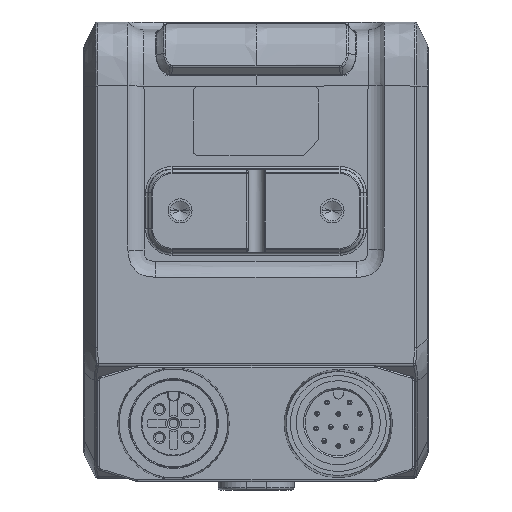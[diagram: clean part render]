
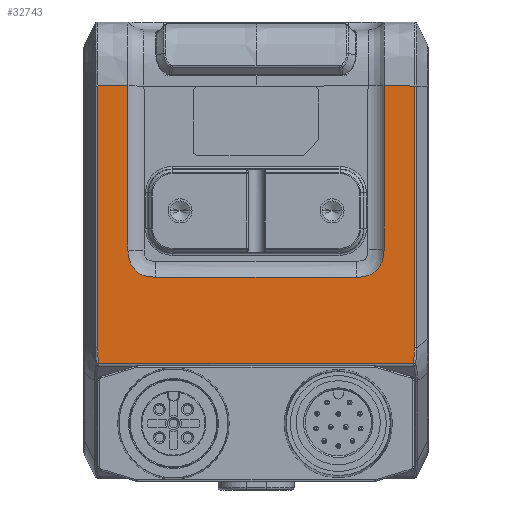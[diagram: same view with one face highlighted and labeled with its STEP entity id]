
A CAD part, front view. The second image highlights one B-rep face of the part: STEP entity #32743.
In plain terms, the highlighted planar face has unit normal (0, -1, 0).
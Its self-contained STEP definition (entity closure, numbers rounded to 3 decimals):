
#1544=CARTESIAN_POINT('',(-102.418,-21.4,
161.638));
#1553=CARTESIAN_POINT('',(-98.603,-21.4,
161.638));
#1594=DIRECTION('',(-1.,0.,0.));
#1595=VECTOR('',#1594,39.402);
#1596=CARTESIAN_POINT('',(-62.902,-21.4,
126.977));
#1597=LINE('',#1596,#1595);
#1598=CARTESIAN_POINT('',(-102.418,-21.4,128.899));
#1599=CARTESIAN_POINT('',(-102.418,-21.4,128.838));
#1600=CARTESIAN_POINT('',(-102.418,-21.4,128.718));
#1601=CARTESIAN_POINT('',(-102.417,-21.4,128.547));
#1602=CARTESIAN_POINT('',(-102.414,-21.4,128.377));
#1603=CARTESIAN_POINT('',(-102.409,-21.4,128.207));
#1604=CARTESIAN_POINT('',(-102.403,-21.4,128.034));
#1605=CARTESIAN_POINT('',(-102.393,-21.4,127.862));
#1606=CARTESIAN_POINT('',(-102.382,-21.4,127.692));
#1607=CARTESIAN_POINT('',(-102.367,-21.4,127.523));
#1608=CARTESIAN_POINT('',(-102.35,-21.4,127.353));
#1609=CARTESIAN_POINT('',(-102.33,-21.4,127.175));
#1610=CARTESIAN_POINT('',(-102.314,-21.4,127.044));
#1611=CARTESIAN_POINT('',(-102.304,-21.4,126.977));
#1613=DIRECTION('',(0.,0.,-1.));
#1614=VECTOR('',#1613,32.739);
#1615=CARTESIAN_POINT('',(-102.418,-21.4,
161.638));
#1616=LINE('',#1615,#1614);
#1617=DIRECTION('',(1.,0.,0.));
#1618=VECTOR('',#1617,3.815);
#1619=CARTESIAN_POINT('',(-102.418,-21.4,
161.638));
#1620=LINE('',#1619,#1618);
#1621=DIRECTION('',(0.,0.,-1.));
#1622=VECTOR('',#1621,20.5);
#1623=CARTESIAN_POINT('',(-98.603,-21.4,
161.638));
#1624=LINE('',#1623,#1622);
#1625=CARTESIAN_POINT('',(-95.105,-21.4,137.738));
#1626=CARTESIAN_POINT('',(-95.303,-21.4,137.738));
#1627=CARTESIAN_POINT('',(-95.683,-21.4,
137.754));
#1628=CARTESIAN_POINT('',(-96.269,-21.4,
137.844));
#1629=CARTESIAN_POINT('',(-96.752,-21.4,
137.992));
#1630=CARTESIAN_POINT('',(-97.131,-21.4,
138.175));
#1631=CARTESIAN_POINT('',(-97.489,-21.4,
138.4));
#1632=CARTESIAN_POINT('',(-97.822,-21.4,
138.713));
#1633=CARTESIAN_POINT('',(-98.073,-21.4,
139.066));
#1634=CARTESIAN_POINT('',(-98.283,-21.4,
139.451));
#1635=CARTESIAN_POINT('',(-98.456,-21.4,
139.944));
#1636=CARTESIAN_POINT('',(-98.569,-21.4,
140.539));
#1637=CARTESIAN_POINT('',(-98.597,-21.4,
140.934));
#1638=CARTESIAN_POINT('',(-98.603,-21.4,
141.136));
#1639=CARTESIAN_POINT('',(-98.603,-21.4,
141.138));
#1641=DIRECTION('',(-1.,0.,0.));
#1642=VECTOR('',#1641,25.003);
#1643=CARTESIAN_POINT('',(-70.102,-21.4,137.738));
#1644=LINE('',#1643,#1642);
#1645=CARTESIAN_POINT('',(-66.603,-21.4,
141.138));
#1646=CARTESIAN_POINT('',(-66.604,-21.4,
141.111));
#1647=CARTESIAN_POINT('',(-66.612,-21.4,
140.891));
#1648=CARTESIAN_POINT('',(-66.645,-21.4,
140.485));
#1649=CARTESIAN_POINT('',(-66.76,-21.4,
139.911));
#1650=CARTESIAN_POINT('',(-66.962,-21.4,
139.35));
#1651=CARTESIAN_POINT('',(-67.293,-21.4,
138.803));
#1652=CARTESIAN_POINT('',(-67.783,-21.4,
138.334));
#1653=CARTESIAN_POINT('',(-68.352,-21.4,
138.024));
#1654=CARTESIAN_POINT('',(-68.928,-21.4,
137.846));
#1655=CARTESIAN_POINT('',(-69.518,-21.4,137.754));
#1656=CARTESIAN_POINT('',(-69.899,-21.4,137.738));
#1657=CARTESIAN_POINT('',(-70.102,-21.4,137.738));
#1659=DIRECTION('',(0.,0.,1.));
#1660=VECTOR('',#1659,20.5);
#1661=CARTESIAN_POINT('',(-66.603,-21.4,
141.138));
#1662=LINE('',#1661,#1660);
#1663=DIRECTION('',(0.,0.,1.));
#1664=VECTOR('',#1663,32.739);
#1665=CARTESIAN_POINT('',(-62.789,-21.4,128.899));
#1666=LINE('',#1665,#1664);
#1667=CARTESIAN_POINT('',(-62.902,-21.4,
126.977));
#1668=CARTESIAN_POINT('',(-62.894,-21.4,
127.039));
#1669=CARTESIAN_POINT('',(-62.878,-21.4,
127.162));
#1670=CARTESIAN_POINT('',(-62.857,-21.4,
127.346));
#1671=CARTESIAN_POINT('',(-62.839,-21.4,
127.531));
#1672=CARTESIAN_POINT('',(-62.823,-21.4,
127.718));
#1673=CARTESIAN_POINT('',(-62.811,-21.4,
127.904));
#1674=CARTESIAN_POINT('',(-62.802,-21.4,
128.087));
#1675=CARTESIAN_POINT('',(-62.795,-21.4,128.271));
#1676=CARTESIAN_POINT('',(-62.791,-21.4,128.464));
#1677=CARTESIAN_POINT('',(-62.789,-21.4,128.671));
#1678=CARTESIAN_POINT('',(-62.789,-21.4,128.821));
#1679=CARTESIAN_POINT('',(-62.789,-21.4,128.899));
#1706=CARTESIAN_POINT('',(-62.789,-21.4,161.638));
#1730=DIRECTION('',(-1.,0.,0.));
#1731=VECTOR('',#1730,3.815);
#1732=CARTESIAN_POINT('',(-62.789,-21.4,161.638));
#1733=LINE('',#1732,#1731);
#1734=CARTESIAN_POINT('',(-66.603,-21.4,
161.638));
#1754=CARTESIAN_POINT('',(-66.603,-21.4,
141.138));
#25271=VERTEX_POINT('',#1553);
#25492=VERTEX_POINT('',#1734);
#26756=VERTEX_POINT('',#1625);
#26757=VERTEX_POINT('',#1639);
#26762=CARTESIAN_POINT('',(-70.102,-21.4,137.738));
#26763=VERTEX_POINT('',#26762);
#26765=VERTEX_POINT('',#1754);
#27165=VERTEX_POINT('',#1544);
#27167=CARTESIAN_POINT('',(-102.418,-21.4,128.899));
#27168=VERTEX_POINT('',#27167);
#27203=VERTEX_POINT('',#1706);
#27205=CARTESIAN_POINT('',(-62.789,-21.4,128.899));
#27206=VERTEX_POINT('',#27205);
#27247=CARTESIAN_POINT('',(-62.902,-21.4,
126.977));
#27248=CARTESIAN_POINT('',(-102.304,-21.4,126.977));
#27249=VERTEX_POINT('',#27247);
#27250=VERTEX_POINT('',#27248);
#32715=CARTESIAN_POINT('',(-81.103,-21.4,161.638));
#32716=DIRECTION('',(0.,-1.,0.));
#32717=DIRECTION('',(1.,0.,0.));
#32718=AXIS2_PLACEMENT_3D('',#32715,#32716,#32717);
#32719=PLANE('',#32718);
#32721=ORIENTED_EDGE('',*,*,#32720,.T.);
#32723=ORIENTED_EDGE('',*,*,#32722,.F.);
#32725=ORIENTED_EDGE('',*,*,#32724,.F.);
#32726=ORIENTED_EDGE('',*,*,#32438,.T.);
#32727=ORIENTED_EDGE('',*,*,#32576,.T.);
#32728=ORIENTED_EDGE('',*,*,#32705,.F.);
#32730=ORIENTED_EDGE('',*,*,#32729,.F.);
#32732=ORIENTED_EDGE('',*,*,#32731,.F.);
#32734=ORIENTED_EDGE('',*,*,#32733,.T.);
#32736=ORIENTED_EDGE('',*,*,#32735,.F.);
#32738=ORIENTED_EDGE('',*,*,#32737,.F.);
#32740=ORIENTED_EDGE('',*,*,#32739,.F.);
#32741=EDGE_LOOP('',(#32721,#32723,#32725,#32726,#32727,#32728,#32730,#32732,
#32734,#32736,#32738,#32740));
#32742=FACE_OUTER_BOUND('',#32741,.F.);
#32743=ADVANCED_FACE('',(#32742),#32719,.T.);
#1612=B_SPLINE_CURVE_WITH_KNOTS('',3,(#1598,#1599,#1600,#1601,#1602,#1603,#1604,
#1605,#1606,#1607,#1608,#1609,#1610,#1611),.UNSPECIFIED.,.F.,.F.,(4,1,1,1,1,1,1,
1,1,1,1,4),(0.,0.091,0.182,0.273,
0.364,0.455,0.545,0.636,
0.727,0.818,0.909,1.),.UNSPECIFIED.);
#1640=B_SPLINE_CURVE_WITH_KNOTS('',3,(#1625,#1626,#1627,#1628,#1629,#1630,#1631,
#1632,#1633,#1634,#1635,#1636,#1637,#1638,#1639),.UNSPECIFIED.,.F.,.F.,(4,1,1,1,
1,1,1,1,1,1,1,1,4),(0.,0.125,0.239,0.345,
0.395,0.445,0.543,0.594,
0.645,0.754,0.871,0.998,1.),
.UNSPECIFIED.);
#1658=B_SPLINE_CURVE_WITH_KNOTS('',3,(#1645,#1646,#1647,#1648,#1649,#1650,#1651,
#1652,#1653,#1654,#1655,#1656,#1657),.UNSPECIFIED.,.F.,.F.,(4,1,1,1,1,1,1,1,1,1,
4),(0.,0.017,0.14,0.252,
0.356,0.454,0.551,0.653,
0.76,0.873,1.),.UNSPECIFIED.);
#1680=B_SPLINE_CURVE_WITH_KNOTS('',3,(#1667,#1668,#1669,#1670,#1671,#1672,#1673,
#1674,#1675,#1676,#1677,#1678,#1679),.UNSPECIFIED.,.F.,.F.,(4,1,1,1,1,1,1,1,1,1,
4),(0.,0.1,0.2,0.3,0.4,0.5,0.6,0.7,0.8,0.9,1.),
.UNSPECIFIED.);
#32438=EDGE_CURVE('',#27165,#25271,#1620,.T.);
#32576=EDGE_CURVE('',#25271,#26757,#1624,.T.);
#32705=EDGE_CURVE('',#26756,#26757,#1640,.T.);
#32720=EDGE_CURVE('',#27249,#27250,#1597,.T.);
#32722=EDGE_CURVE('',#27168,#27250,#1612,.T.);
#32724=EDGE_CURVE('',#27165,#27168,#1616,.T.);
#32729=EDGE_CURVE('',#26763,#26756,#1644,.T.);
#32731=EDGE_CURVE('',#26765,#26763,#1658,.T.);
#32733=EDGE_CURVE('',#26765,#25492,#1662,.T.);
#32735=EDGE_CURVE('',#27203,#25492,#1733,.T.);
#32737=EDGE_CURVE('',#27206,#27203,#1666,.T.);
#32739=EDGE_CURVE('',#27249,#27206,#1680,.T.);
